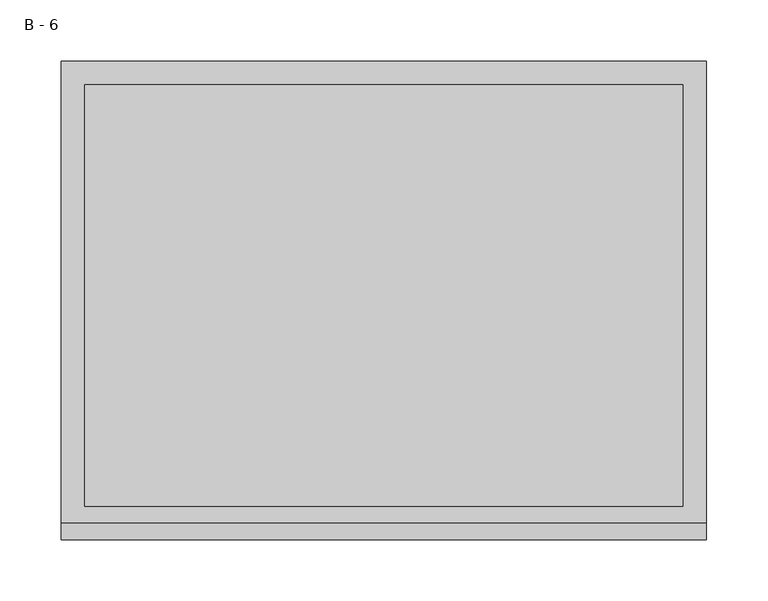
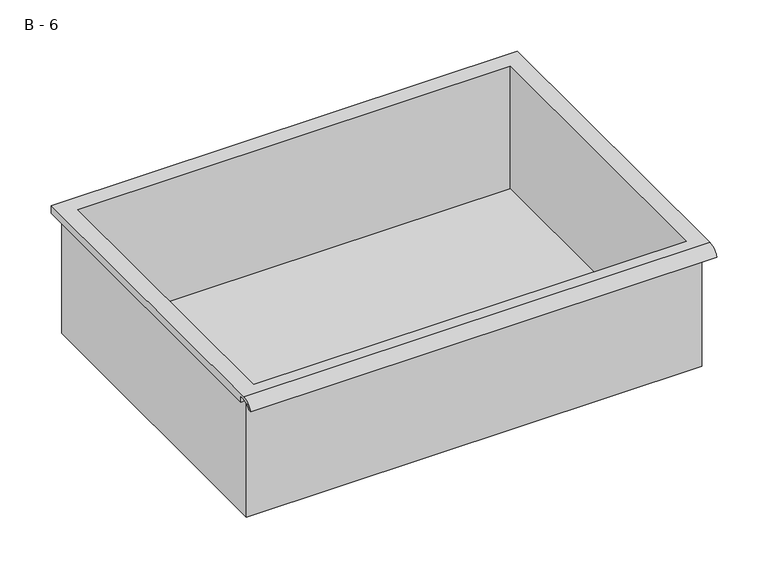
"""IFC4 building model written with IfcOpenShell, lengths in millimetres: furniture geometry, HermanMiller_CoStruc_CO207_Drawer : B - 6."""

import ifcopenshell
import ifcopenshell.guid

model = None  # the IFC model being written
_history = None  # IfcOwnerHistory: only IFC2X3 demands one
_inside = {}  # id of a spatial element -> (the spatial element, [elements in it])
_under = {}  # id of a project, library or spatial element -> (it, [spatial elements below it])
_declared = {}  # id of a project -> (the project, [libraries it declares])
_typed = {}  # id of a type object -> (the type object, [elements of that type])
_made_of = {}  # id of a material, layer set ... -> (it, [elements and type objects made of it])


def new_model(schema):
    """Start an empty IFC model of exactly this schema.

    Asked for "IFC4X3", IfcOpenShell would pick the latest addendum, in which some entities
    have other attributes; the version numbers below select the first issue.
    IFC2X3 requires an IfcOwnerHistory on every rooted entity: one is made here for all.
    """
    global model, _history
    if schema == "IFC4X3":
        model = ifcopenshell.file(schema_version=(4, 3, 0, 0))
    else:
        model = ifcopenshell.file(schema=schema)
    _inside.clear()
    _under.clear()
    _declared.clear()
    _typed.clear()
    _made_of.clear()
    _history = None
    if model.schema == "IFC2X3":
        org = make("IfcOrganization", Name="unknown")
        user = make(
            "IfcPersonAndOrganization",
            ThePerson=make("IfcPerson", FamilyName="unknown"),
            TheOrganization=org,
        )
        app = make(
            "IfcApplication",
            ApplicationDeveloper=org,
            Version="unknown",
            ApplicationFullName="unknown",
            ApplicationIdentifier="unknown",
        )
        _history = make(
            "IfcOwnerHistory",
            OwningUser=user,
            OwningApplication=app,
            ChangeAction="ADDED",
            CreationDate=0,
        )
    return model


def make(cls, **values):
    """One entity of the class cls with the attributes given. An attribute that is None is left unset."""
    return model.create_entity(
        cls, **{name: value for name, value in values.items() if value is not None}
    )


def rooted(cls, **values):
    """An entity with a GlobalId (a new one), such as an element, a storey or a relation."""
    return make(cls, GlobalId=ifcopenshell.guid.new(), OwnerHistory=_history, **values)


def si_unit(unit_type, name, prefix=None):
    """IfcSIUnit, for example si_unit("LENGTHUNIT", "METRE", prefix="MILLI")."""
    return make("IfcSIUnit", UnitType=unit_type, Prefix=prefix, Name=name)


def assignment(units):
    """IfcUnitAssignment: the units of a project."""
    return None if units is None else make("IfcUnitAssignment", Units=units)


def point(xyz):
    """IfcCartesianPoint."""
    return None if xyz is None else make("IfcCartesianPoint", Coordinates=xyz)


def direction(xyz):
    """IfcDirection."""
    return None if xyz is None else make("IfcDirection", DirectionRatios=xyz)


def frame(location, z_axis=None, x_axis=None):
    """IfcAxis2Placement3D, a coordinate frame: its origin and axes. An axis left out is left unset."""
    return make(
        "IfcAxis2Placement3D",
        Location=point(location),
        Axis=direction(z_axis),
        RefDirection=direction(x_axis),
    )


def origin():
    """The frame at (0, 0, 0) with its axes left unset."""
    return frame((0.0, 0.0, 0.0))


def place(relative_to, where):
    """IfcLocalPlacement: puts the frame where relative to a parent placement (None: the world)."""
    return make(
        "IfcLocalPlacement", PlacementRelTo=relative_to, RelativePlacement=where
    )


def context(
    kind, dimensions, precision=None, world=None, true_north=None, identifier=None
):
    """IfcGeometricRepresentationContext, for example the 3D "Model" context."""
    return make(
        "IfcGeometricRepresentationContext",
        ContextIdentifier=identifier,
        ContextType=kind,
        CoordinateSpaceDimension=dimensions,
        Precision=precision,
        WorldCoordinateSystem=world,
        TrueNorth=true_north,
    )


def project(units=None, contexts=None):
    """IfcProject with its units and contexts."""
    return rooted(
        "IfcProject",
        Name="project",
        RepresentationContexts=contexts,
        UnitsInContext=assignment(units),
    )


def spatial(cls, under=None, at=None, **own):
    """A site, building, storey or space (cls), placed at a placement, below another one or the project."""
    s = rooted(cls, ObjectPlacement=at, **own)
    if under is not None:
        _under.setdefault(under.id(), (under, []))[1].append(s)
    return s


def polyline(points):
    """IfcPolyline through the points."""
    return make("IfcPolyline", Points=[point(p) for p in points])


def circle_curve(where, radius):
    """IfcCircle in the frame where."""
    return make("IfcCircle", Position=where, Radius=radius)


def shape(context_of_items, identifier, shape_type, items):
    """IfcShapeRepresentation: the items that make up one representation, for example the "Body"."""
    return make(
        "IfcShapeRepresentation",
        ContextOfItems=context_of_items,
        RepresentationIdentifier=identifier,
        RepresentationType=shape_type,
        Items=items,
    )


def source(mapping_origin, context_of_items, identifier, shape_type, items):
    """IfcRepresentationMap: a shape defined once, which mapped items show again and again."""
    return make(
        "IfcRepresentationMap",
        MappingOrigin=mapping_origin,
        MappedRepresentation=shape(context_of_items, identifier, shape_type, items),
    )


def transform(
    local_origin,
    x_axis=None,
    y_axis=None,
    z_axis=None,
    scale=None,
    scale2=None,
    scale3=None,
    uniform=True,
):
    """IfcCartesianTransformationOperator3D, or its non-uniform kind. x_axis, y_axis, z_axis: its Axis1, 2, 3."""
    if uniform:
        return make(
            "IfcCartesianTransformationOperator3D",
            Axis1=direction(x_axis),
            Axis2=direction(y_axis),
            LocalOrigin=point(local_origin),
            Scale=scale,
            Axis3=direction(z_axis),
        )
    return make(
        "IfcCartesianTransformationOperator3DnonUniform",
        Axis1=direction(x_axis),
        Axis2=direction(y_axis),
        LocalOrigin=point(local_origin),
        Scale=scale,
        Axis3=direction(z_axis),
        Scale2=scale2,
        Scale3=scale3,
    )


def mapped(mapping_source, mapping_target):
    """IfcMappedItem: shows the shape of a source again, moved by a transform."""
    return make(
        "IfcMappedItem", MappingSource=mapping_source, MappingTarget=mapping_target
    )


def made_of(thing, what):
    """Note that an element or type object is made of a material, layer set ...; save() writes the relation."""
    if what is not None:
        _made_of.setdefault(what.id(), (what, []))[1].append(thing)
    return thing


def element(
    cls,
    number,
    at=None,
    inside=None,
    cuts=None,
    type_object=None,
    material=None,
    context=None,
    identifier="Body",
    shape_type=None,
    held_by="IfcProductDefinitionShape",
    body=None,
    shapes=None,
    **own,
):
    """One element of the class cls, such as IfcWall. Its Tag is "e" and its number.

    at: its placement. inside: the storey or other place that contains it. cuts: it is an
    opening in that element (IfcRelVoidsElement). A single representation is given by context,
    identifier, shape_type and body (its items); several are given by shapes. held_by: the class
    of the entity that holds the representations. save() writes the other relations.
    """
    e = rooted(cls, Tag="e%d" % number, ObjectPlacement=at, **own)
    if body is not None:
        shapes = [shape(context, identifier, shape_type, body)]
    if shapes is not None:
        e.Representation = make(held_by, Representations=shapes)
    if inside is not None:
        _inside.setdefault(inside.id(), (inside, []))[1].append(e)
    if cuts is not None:
        rooted(
            "IfcRelVoidsElement", RelatingBuildingElement=cuts, RelatedOpeningElement=e
        )
    if type_object is not None:
        _typed.setdefault(type_object.id(), (type_object, []))[1].append(e)
    return made_of(e, material)


def aggregate(whole, parts):
    """IfcRelAggregates: a whole, such as a stair, and the parts it consists of."""
    return rooted("IfcRelAggregates", RelatingObject=whole, RelatedObjects=parts)


def save(model, path):
    """Write the relations noted so far, then the file.

    IfcRelAggregates (storeys below a building ...), IfcRelContainedInSpatialStructure (elements
    in a storey), IfcRelDefinesByType, IfcRelAssociatesMaterial and IfcRelDeclares: one each for
    every whole, place, type object, material and project.
    """
    for whole, parts in _under.values():
        aggregate(whole, parts)
    for where, things in _inside.values():
        rooted(
            "IfcRelContainedInSpatialStructure",
            RelatedElements=things,
            RelatingStructure=where,
        )
    for kind, things in _typed.values():
        rooted("IfcRelDefinesByType", RelatedObjects=things, RelatingType=kind)
    for what, things in _made_of.values():
        rooted("IfcRelAssociatesMaterial", RelatedObjects=things, RelatingMaterial=what)
    for by, libraries in _declared.values():
        rooted("IfcRelDeclares", RelatingContext=by, RelatedDefinitions=libraries)
    model.write(path)


def plane_surface(at):
    """IfcPlane: the flat surface through the origin of the frame at, square to its z axis."""
    return make("IfcPlane", Position=at)


def cylinder_surface(at, radius):
    """IfcCylindricalSurface: all points at the distance radius from the z axis of the frame at."""
    return make("IfcCylindricalSurface", Position=at, Radius=radius)


def revolved_surface(curve, axis_point, axis_direction):
    """IfcSurfaceOfRevolution: the curve turned about the line through axis_point along axis_direction."""
    return make(
        "IfcSurfaceOfRevolution",
        SweptCurve=make("IfcArbitraryOpenProfileDef", ProfileType="CURVE", Curve=curve),
        AxisPosition=make("IfcAxis1Placement", Location=point(axis_point), Axis=direction(axis_direction)),
    )


def advanced_brep(points, edges, surfaces, faces):
    """IfcAdvancedBrep: a solid bounded by faces that lie on surfaces and meet in shared edges.

    An edge is (start, end): straight between two places in points (the first is 0);
    or (start, end, curve); or (start, end, curve, False) where it runs against its curve.
    A face is (place in surfaces, loops), or (place, loops, False) where it looks against
    its surface's normal. A loop lists edges by number (the first is 1), with a minus sign
    where the edge is run from its end to its start. The first loop is the outer one.
    """
    corners = [point(p) for p in points]
    vertices = [make("IfcVertexPoint", VertexGeometry=c) for c in corners]
    made = []
    for start, end, *more in edges:
        made.append(
            make(
                "IfcEdgeCurve",
                EdgeStart=vertices[start],
                EdgeEnd=vertices[end],
                EdgeGeometry=more[0] if more else make("IfcPolyline", Points=[corners[start], corners[end]]),
                SameSense=more[1] if len(more) > 1 else True,
            )
        )
    hull = []
    for where, loops, *sense in faces:
        bounds = []
        for j, loop in enumerate(loops):
            ring = [make("IfcOrientedEdge", EdgeElement=made[abs(k) - 1], Orientation=k > 0) for k in loop]
            bounds.append(
                make(
                    "IfcFaceOuterBound" if j == 0 else "IfcFaceBound",
                    Bound=make("IfcEdgeLoop", EdgeList=ring),
                    Orientation=True,
                )
            )
        hull.append(make("IfcAdvancedFace", Bounds=bounds, FaceSurface=surfaces[where], SameSense=sense[0] if sense else True))
    return make("IfcAdvancedBrep", Outer=make("IfcClosedShell", CfsFaces=hull))


def b_6_31b83598(model_context):
    return source(origin(), model_context, "Body", "AdvancedBrep", [
        advanced_brep(
        [(-257.1076517, -176.2125, 393.7), (257.2423483, -176.2125, 393.7), (257.2423483, -176.2125, 533.4), (263.5923483, -176.2125, 533.4), (263.5923483, -176.2125, 539.7071341), (-263.4576517, -176.2125, 539.7071341), (-263.4576517, -176.2125, 533.4), (-257.1076517, -176.2125, 533.4), (257.2423483, 185.7375, 393.7), (-257.1076517, 185.7375, 393.7), (-257.1076517, 185.7375, 533.4), (257.2423483, 185.7375, 533.4), (263.5923483, -181.6070544, 542.925), (263.5923483, 195.2625, 542.925), (-263.4576517, 195.2625, 542.925), (-263.4576517, -181.6070544, 542.925), (244.5423483, -168.275, 542.925), (-244.4076517, -168.275, 542.925), (-244.4076517, 176.2125, 542.925), (244.5423483, 176.2125, 542.925), (263.5923483, -195.2625, 533.4), (263.5923483, -191.8280601, 533.4), (263.5923483, -180.4714815, 539.7071341), (263.5923483, 195.2625, 533.4), (-263.4576517, 195.2625, 533.4), (-263.4576517, -180.4714815, 539.7071341), (-263.4576517, -191.8280601, 533.4), (-263.4576517, -195.2625, 533.4), (-244.4076517, -168.275, 396.7261719), (244.5423483, -168.275, 396.7261719), (244.5423483, 176.2125, 396.7261719), (-244.4076517, 176.2125, 396.7261719)],
        [
            (0, 1),
            (1, 2),
            (2, 3),
            (3, 4),
            (4, 5),
            (5, 6),
            (6, 7),
            (7, 0),
            (8, 9),
            (9, 10),
            (10, 11),
            (11, 8),
            (0, 9),
            (8, 1),
            (11, 2),
            (12, 13),
            (13, 14),
            (14, 15),
            (15, 12),
            (16, 17),
            (17, 18),
            (18, 19),
            (19, 16),
            (7, 10),
            (12, 20, circle_curve(frame((263.5923483, -181.6070544, 528.3739859), z_axis=(1.0, 0.0, 0.0), x_axis=(0.0, 1.0, 0.0)), 14.5510141)),
            (20, 21),
            (21, 22, circle_curve(frame((263.5923483, -181.6070544, 528.3739859), z_axis=(-1.0, 0.0, 0.0), x_axis=(0.0, 1.0, 0.0)), 11.3898979)),
            (22, 4),
            (3, 23),
            (23, 13),
            (14, 24),
            (24, 6),
            (5, 25),
            (25, 26, circle_curve(frame((-263.4576517, -181.6070544, 528.3739859), z_axis=(1.0, 0.0, 0.0), x_axis=(0.0, 1.0, 0.0)), 11.3898979)),
            (26, 27),
            (27, 15, circle_curve(frame((-263.4576517, -181.6070544, 528.3739859), z_axis=(-1.0, 0.0, 0.0), x_axis=(0.0, 1.0, 0.0)), 14.5510141)),
            (27, 20),
            (26, 21),
            (25, 22),
            (24, 23),
            (28, 29),
            (29, 30),
            (30, 31),
            (31, 28),
            (28, 17),
            (16, 29),
            (19, 30),
            (18, 31),
        ],
        [
            plane_surface(frame((257.2423483, -176.2125, 393.7), z_axis=(0.0, -1.0, 0.0), x_axis=(1.0, 0.0, 0.0))),
            plane_surface(frame((257.2423483, 185.7375, 393.7), z_axis=(0.0, 1.0, 0.0), x_axis=(-1.0, 0.0, 0.0))),
            plane_surface(frame((-257.1076517, -176.2125, 393.7), z_axis=(0.0, 0.0, -1.0), x_axis=(0.0, 1.0, 0.0))),
            plane_surface(frame((257.2423483, -176.2125, 393.7), z_axis=(1.0, 0.0, 0.0), x_axis=(0.0, 1.0, 0.0))),
            plane_surface(frame((257.2423483, -176.2125, 542.925), z_axis=(0.0, 0.0, 1.0), x_axis=(0.0, 1.0, 0.0))),
            plane_surface(frame((-257.1076517, -176.2125, 542.925), z_axis=(-1.0, 0.0, 0.0), x_axis=(0.0, 1.0, 0.0))),
            plane_surface(frame((263.5923483, 195.2625, 542.925), z_axis=(1.0, 0.0, 0.0), x_axis=(0.0, -1.0, 0.0))),
            plane_surface(frame((-263.4576517, 195.2625, 542.925), z_axis=(-1.0, 0.0, 0.0), x_axis=(0.0, 1.0, 0.0))),
            cylinder_surface(frame((-263.4576517, -181.6070544, 528.3739859), z_axis=(1.0, 0.0, 0.0), x_axis=(0.0, 1.0, 0.0)), 14.5510141),
            plane_surface(frame((263.5923483, -195.2625, 533.4), z_axis=(0.0, -7.232115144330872e-12, -1.0), x_axis=(-1.0, 0.0, 0.0))),
            revolved_surface(polyline([(-263.4576517, -170.21715650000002, 528.3739859), (263.59234829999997, -170.21715650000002, 528.3739859)]), (-263.4576517, -181.6070544, 528.3739859), (-1.0, 0.0, 0.0)),
            plane_surface(frame((263.5923483, -180.4714815, 539.7071341), z_axis=(0.0, -1.792497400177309e-11, -1.0), x_axis=(-1.0, 0.0, 0.0))),
            plane_surface(frame((263.5923483, -176.2125, 533.4), z_axis=(0.0, 0.0, -1.0), x_axis=(-1.0, 0.0, 0.0))),
            plane_surface(frame((263.5923483, 195.2625, 533.4), z_axis=(0.0, 1.0, 0.0), x_axis=(-1.0, 0.0, 0.0))),
            plane_surface(frame((244.5423483, -168.275, 396.7261719), z_axis=(0.0, 0.0, 1.0), x_axis=(-1.0, 0.0, 0.0))),
            plane_surface(frame((-244.4076517, -168.275, 542.925), z_axis=(0.0, 1.0, 0.0), x_axis=(0.0, 0.0, -1.0))),
            plane_surface(frame((244.5423483, -168.275, 542.925), z_axis=(-1.0, 0.0, 0.0), x_axis=(0.0, 0.0, -1.0))),
            plane_surface(frame((244.5423483, 176.2125, 542.925), z_axis=(0.0, -1.0, 0.0), x_axis=(0.0, 0.0, -1.0))),
            plane_surface(frame((-244.4076517, 176.2125, 542.925), z_axis=(1.0, 0.0, 0.0), x_axis=(0.0, 0.0, -1.0))),
        ],
        [
            (0, [[1, 2, 3, 4, 5, 6, 7, 8]]),
            (1, [[9, 10, 11, 12]]),
            (2, [[-1, 13, -9, 14]]),
            (3, [[-14, -12, 15, -2]]),
            (4, [[16, 17, 18, 19], [20, 21, 22, 23]]),
            (5, [[-13, -8, 24, -10]]),
            (6, [[-16, 25, 26, 27, 28, -4, 29, 30]]),
            (7, [[31, 32, -6, 33, 34, 35, 36, -18]]),
            (8, [[-25, -19, -36, 37]]),
            (9, [[-26, -37, -35, 38]]),
            (10, [[-27, -38, -34, 39]]),
            (11, [[-28, -39, -33, -5]]),
            (12, [[-29, -3, -15, -11, -24, -7, -32, 40]]),
            (13, [[-30, -40, -31, -17]]),
            (14, [[41, 42, 43, 44]]),
            (15, [[-41, 45, -20, 46]]),
            (16, [[-42, -46, -23, 47]]),
            (17, [[-43, -47, -22, 48]]),
            (18, [[-44, -48, -21, -45]]),
        ],
    ),
    ])


if __name__ == "__main__":
    model = new_model("IFC4")
    model_context = context("Model", 3, world=origin())
    ifc_project = project(units=[si_unit("LENGTHUNIT", "METRE", prefix="MILLI")], contexts=[model_context])
    site = spatial("IfcSite", under=ifc_project)
    building = spatial("IfcBuilding", under=site)
    placement = place(None, origin())
    b_6_shape = b_6_31b83598(model_context)
    element("IfcFurniture", 1, ObjectType="HermanMiller_CoStruc_CO207_Drawer : B - 6", at=placement, inside=building, context=model_context, shape_type="MappedRepresentation", body=[
        mapped(b_6_shape, transform((0.0, 0.0, 0.0), x_axis=(1.0, 0.0, 0.0), y_axis=(0.0, 1.0, 0.0), z_axis=(0.0, 0.0, 1.0))),
    ])
    save(model, "model.ifc")
